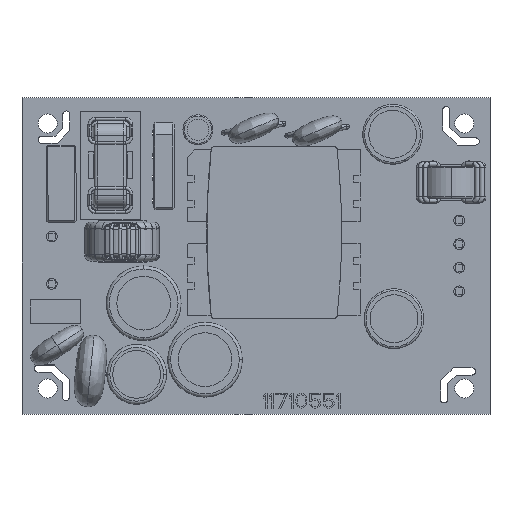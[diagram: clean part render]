
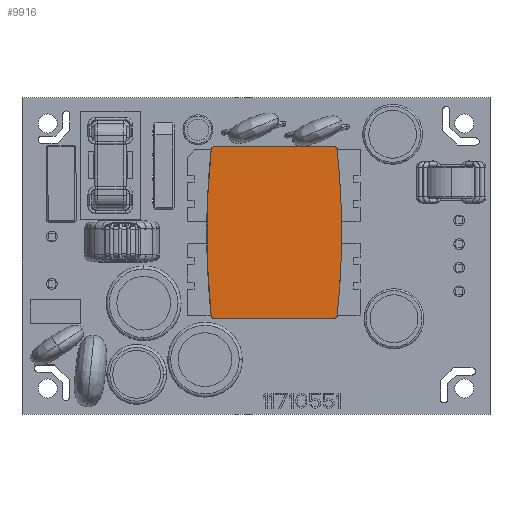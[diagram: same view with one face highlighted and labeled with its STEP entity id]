
A CAD part, top view. The second image highlights one B-rep face of the part: STEP entity #9916.
In plain terms, the highlighted planar face has unit normal (0, 0, 1).
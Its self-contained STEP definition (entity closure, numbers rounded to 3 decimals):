
#1296 = CARTESIAN_POINT ( 'NONE',  ( 32.207, 44.75, 27.211 ) ) ;
#2134 = CARTESIAN_POINT ( 'NONE',  ( 52.807, 44.304, 27.211 ) ) ;
#2840 = AXIS2_PLACEMENT_3D ( 'NONE', #57752, #41813, #68986 ) ;
#3059 = VERTEX_POINT ( 'NONE', #88291 ) ;
#5165 = DIRECTION ( 'NONE',  ( -1., 0., 0. ) ) ;
#5385 = EDGE_CURVE ( 'NONE', #50002, #3059, #115554, .T. ) ;
#5501 = VERTEX_POINT ( 'NONE', #112782 ) ;
#6891 = FACE_OUTER_BOUND ( 'NONE', #22946, .T. ) ;
#9056 = VECTOR ( 'NONE', #37248, 1000. ) ;
#9916 = ADVANCED_FACE ( 'NONE', ( #6891 ), #98945, .T. ) ;
#10486 = CARTESIAN_POINT ( 'NONE',  ( -76.444, 30.375, 27.211 ) ) ;
#10847 = CARTESIAN_POINT ( 'NONE',  ( 52.807, 16.446, 27.211 ) ) ;
#16957 = DIRECTION ( 'NONE',  ( 1., 0., 0. ) ) ;
#18316 = CARTESIAN_POINT ( 'NONE',  ( 32.207, 16., 27.211 ) ) ;
#18470 = DIRECTION ( 'NONE',  ( -0.994, -0.107, 0. ) ) ;
#20615 = ORIENTED_EDGE ( 'NONE', *, *, #5385, .F. ) ;
#21279 = DIRECTION ( 'NONE',  ( 0., 0., -1. ) ) ;
#21366 = ORIENTED_EDGE ( 'NONE', *, *, #37675, .F. ) ;
#22064 = EDGE_CURVE ( 'NONE', #3059, #5501, #68949, .T. ) ;
#22946 = EDGE_LOOP ( 'NONE', ( #93998, #48425, #21366, #51265, #69405, #49645, #77198, #20615, #24968 ) ) ;
#24968 = ORIENTED_EDGE ( 'NONE', *, *, #100850, .F. ) ;
#26107 = CARTESIAN_POINT ( 'NONE',  ( 160.961, 30.375, 27.211 ) ) ;
#27290 = DIRECTION ( 'NONE',  ( 0., 0., -1. ) ) ;
#27350 = AXIS2_PLACEMENT_3D ( 'NONE', #104417, #34214, #61314 ) ;
#32371 = VERTEX_POINT ( 'NONE', #18316 ) ;
#34214 = DIRECTION ( 'NONE',  ( 0., 0., -1. ) ) ;
#34583 = DIRECTION ( 'NONE',  ( 0.994, -0.107, 0. ) ) ;
#37248 = DIRECTION ( 'NONE',  ( 1., 0., 0. ) ) ;
#37675 = EDGE_CURVE ( 'NONE', #88464, #114050, #64519, .T. ) ;
#39441 = DIRECTION ( 'NONE',  ( 0., 0., -1. ) ) ;
#41359 = EDGE_CURVE ( 'NONE', #5501, #90444, #100919, .T. ) ;
#41813 = DIRECTION ( 'NONE',  ( 0., 0., -1. ) ) ;
#46687 = VECTOR ( 'NONE', #5165, 1000. ) ;
#48425 = ORIENTED_EDGE ( 'NONE', *, *, #51251, .F. ) ;
#49645 = ORIENTED_EDGE ( 'NONE', *, *, #41359, .F. ) ;
#50002 = VERTEX_POINT ( 'NONE', #113679 ) ;
#51251 = EDGE_CURVE ( 'NONE', #114050, #107074, #55780, .T. ) ;
#51265 = ORIENTED_EDGE ( 'NONE', *, *, #71313, .F. ) ;
#54121 = DIRECTION ( 'NONE',  ( 0., 0., 1. ) ) ;
#55780 = CIRCLE ( 'NONE', #76525, 0.5 ) ;
#57150 = DIRECTION ( 'NONE',  ( 1., 0., 0. ) ) ;
#57752 = CARTESIAN_POINT ( 'NONE',  ( 32.207, 16.5, 27.211 ) ) ;
#57954 = AXIS2_PLACEMENT_3D ( 'NONE', #97770, #54121, #16957 ) ;
#61314 = DIRECTION ( 'NONE',  ( -0.994, 0.107, 0. ) ) ;
#64519 = CIRCLE ( 'NONE', #115322, 130. ) ;
#65909 = VERTEX_POINT ( 'NONE', #2134 ) ;
#66255 = CARTESIAN_POINT ( 'NONE',  ( 53.556, 30.375, 27.211 ) ) ;
#68843 = EDGE_CURVE ( 'NONE', #107074, #32371, #112572, .T. ) ;
#68949 = CIRCLE ( 'NONE', #27350, 0.5 ) ;
#68986 = DIRECTION ( 'NONE',  ( 0., -1., 0. ) ) ;
#69405 = ORIENTED_EDGE ( 'NONE', *, *, #88975, .F. ) ;
#69762 = CARTESIAN_POINT ( 'NONE',  ( 52.31, 44.75, 27.211 ) ) ;
#70451 = DIRECTION ( 'NONE',  ( 0., 0., -1. ) ) ;
#71046 = DIRECTION ( 'NONE',  ( 0., 1., 0. ) ) ;
#71313 = EDGE_CURVE ( 'NONE', #65909, #88464, #99421, .T. ) ;
#76525 = AXIS2_PLACEMENT_3D ( 'NONE', #79434, #115351, #34583 ) ;
#76850 = CIRCLE ( 'NONE', #86254, 0.5 ) ;
#77198 = ORIENTED_EDGE ( 'NONE', *, *, #22064, .F. ) ;
#79434 = CARTESIAN_POINT ( 'NONE',  ( 52.31, 16.5, 27.211 ) ) ;
#80047 = CIRCLE ( 'NONE', #2840, 0.5 ) ;
#86254 = AXIS2_PLACEMENT_3D ( 'NONE', #107497, #70451, #71046 ) ;
#88291 = CARTESIAN_POINT ( 'NONE',  ( 31.71, 44.304, 27.211 ) ) ;
#88464 = VERTEX_POINT ( 'NONE', #66255 ) ;
#88975 = EDGE_CURVE ( 'NONE', #90444, #65909, #76850, .T. ) ;
#90444 = VERTEX_POINT ( 'NONE', #69762 ) ;
#93998 = ORIENTED_EDGE ( 'NONE', *, *, #68843, .F. ) ;
#94586 = CARTESIAN_POINT ( 'NONE',  ( 52.31, 16., 27.211 ) ) ;
#97770 = CARTESIAN_POINT ( 'NONE',  ( -246.009, -89.308, 27.211 ) ) ;
#98673 = AXIS2_PLACEMENT_3D ( 'NONE', #26107, #27290, #18470 ) ;
#98945 = PLANE ( 'NONE',  #57954 ) ;
#99421 = CIRCLE ( 'NONE', #110676, 130. ) ;
#100850 = EDGE_CURVE ( 'NONE', #32371, #50002, #80047, .T. ) ;
#100919 = LINE ( 'NONE', #1296, #9056 ) ;
#102060 = CARTESIAN_POINT ( 'NONE',  ( -76.444, 30.375, 27.211 ) ) ;
#104417 = CARTESIAN_POINT ( 'NONE',  ( 32.207, 44.25, 27.211 ) ) ;
#107074 = VERTEX_POINT ( 'NONE', #94586 ) ;
#107497 = CARTESIAN_POINT ( 'NONE',  ( 52.31, 44.25, 27.211 ) ) ;
#108576 = DIRECTION ( 'NONE',  ( 1., 0., 0. ) ) ;
#110676 = AXIS2_PLACEMENT_3D ( 'NONE', #102060, #21279, #108576 ) ;
#112572 = LINE ( 'NONE', #113126, #46687 ) ;
#112782 = CARTESIAN_POINT ( 'NONE',  ( 32.207, 44.75, 27.211 ) ) ;
#113126 = CARTESIAN_POINT ( 'NONE',  ( 52.31, 16., 27.211 ) ) ;
#113679 = CARTESIAN_POINT ( 'NONE',  ( 31.71, 16.446, 27.211 ) ) ;
#114050 = VERTEX_POINT ( 'NONE', #10847 ) ;
#115322 = AXIS2_PLACEMENT_3D ( 'NONE', #10486, #39441, #57150 ) ;
#115351 = DIRECTION ( 'NONE',  ( 0., 0., -1. ) ) ;
#115554 = CIRCLE ( 'NONE', #98673, 130. ) ;
